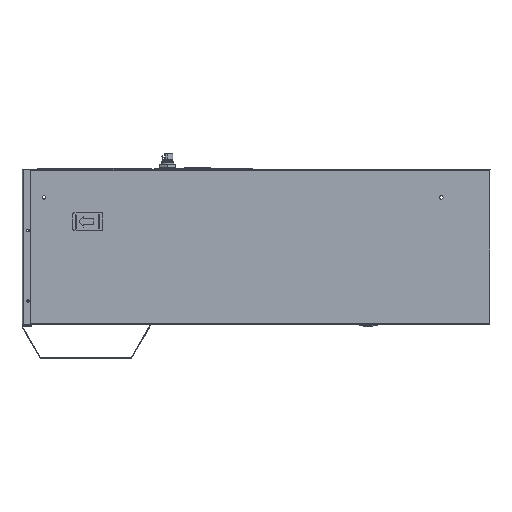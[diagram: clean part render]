
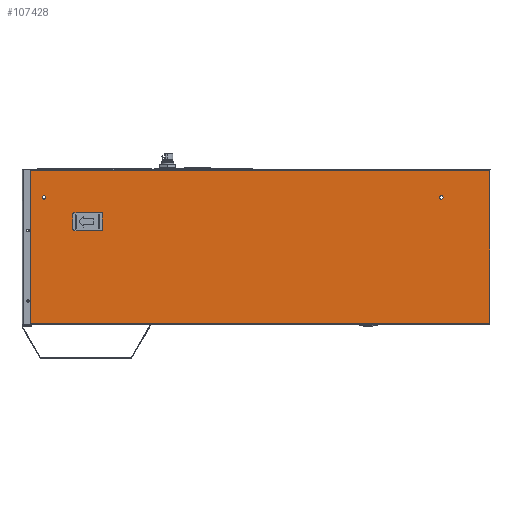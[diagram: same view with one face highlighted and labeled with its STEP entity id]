
A CAD part, left-side view. The second image highlights one B-rep face of the part: STEP entity #107428.
In plain terms, the highlighted planar face has unit normal (-1, 0, 0).
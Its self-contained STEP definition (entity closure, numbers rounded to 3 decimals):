
#4379 = EDGE_CURVE ( 'NONE', #43909, #323243, #341657, .T. ) ;
#10546 = CARTESIAN_POINT ( 'NONE',  ( -149.25, 907., 44.957 ) ) ;
#16429 = CARTESIAN_POINT ( 'NONE',  ( -149.25, 915., 300.806 ) ) ;
#18563 = DIRECTION ( 'NONE',  ( 0., 0., -1. ) ) ;
#19150 = DIRECTION ( 'NONE',  ( 0., 0., -1. ) ) ;
#39277 = DIRECTION ( 'NONE',  ( 0., 0., -1. ) ) ;
#43909 = VERTEX_POINT ( 'NONE', #54757 ) ;
#51659 = AXIS2_PLACEMENT_3D ( 'NONE', #77028, #277119, #105850 ) ;
#53071 = LINE ( 'NONE', #369720, #348435 ) ;
#54757 = CARTESIAN_POINT ( 'NONE',  ( -149.25, 875.601, 251.607 ) ) ;
#58569 = EDGE_CURVE ( 'NONE', #298097, #134741, #302938, .T. ) ;
#58740 = DIRECTION ( 'NONE',  ( 0., 0., -1. ) ) ;
#59630 = CARTESIAN_POINT ( 'NONE',  ( -149.25, 875.601, 248.107 ) ) ;
#73892 = CIRCLE ( 'NONE', #141784, 2.153 ) ;
#76088 = EDGE_CURVE ( 'NONE', #134741, #298097, #127586, .T. ) ;
#77028 = CARTESIAN_POINT ( 'NONE',  ( -149.25, 915., 0. ) ) ;
#80191 = CARTESIAN_POINT ( 'NONE',  ( -149.25, 0., 0. ) ) ;
#81795 = EDGE_CURVE ( 'NONE', #255290, #211339, #356520, .T. ) ;
#82511 = CIRCLE ( 'NONE', #251229, 3.5 ) ;
#88414 = AXIS2_PLACEMENT_3D ( 'NONE', #129667, #329794, #158375 ) ;
#93172 = ORIENTED_EDGE ( 'NONE', *, *, #366770, .T. ) ;
#94990 = CARTESIAN_POINT ( 'NONE',  ( -149.25, 0., 300.806 ) ) ;
#98318 = VERTEX_POINT ( 'NONE', #94990 ) ;
#105850 = DIRECTION ( 'NONE',  ( 0., 0., -1. ) ) ;
#107428 = ADVANCED_FACE ( 'NONE', ( #184864, #108807, #328086, #251821, #175890 ), #190854, .F. ) ;
#108807 = FACE_BOUND ( 'NONE', #189956, .T. ) ;
#116350 = CARTESIAN_POINT ( 'NONE',  ( -149.25, 0., 0.787 ) ) ;
#117064 = ORIENTED_EDGE ( 'NONE', *, *, #355174, .T. ) ;
#119514 = CIRCLE ( 'NONE', #141017, 3.5 ) ;
#123585 = DIRECTION ( 'NONE',  ( 1., 0., 0. ) ) ;
#125026 = AXIS2_PLACEMENT_3D ( 'NONE', #301813, #130521, #330641 ) ;
#127586 = CIRCLE ( 'NONE', #88414, 2.153 ) ;
#129667 = CARTESIAN_POINT ( 'NONE',  ( -149.25, 907., 182.957 ) ) ;
#130521 = DIRECTION ( 'NONE',  ( 1., 0., 0. ) ) ;
#132492 = CARTESIAN_POINT ( 'NONE',  ( -149.25, 95.601, 244.607 ) ) ;
#132828 = CARTESIAN_POINT ( 'NONE',  ( -149.25, 907., 42.804 ) ) ;
#134741 = VERTEX_POINT ( 'NONE', #301493 ) ;
#138954 = VECTOR ( 'NONE', #309043, 1000. ) ;
#140346 = VERTEX_POINT ( 'NONE', #132828 ) ;
#141017 = AXIS2_PLACEMENT_3D ( 'NONE', #361858, #190545, #19150 ) ;
#141784 = AXIS2_PLACEMENT_3D ( 'NONE', #361285, #189941, #18563 ) ;
#144977 = ORIENTED_EDGE ( 'NONE', *, *, #271596, .F. ) ;
#149529 = DIRECTION ( 'NONE',  ( 1., 0., 0. ) ) ;
#150040 = LINE ( 'NONE', #161162, #208159 ) ;
#152851 = AXIS2_PLACEMENT_3D ( 'NONE', #320918, #149529, #349685 ) ;
#153178 = CARTESIAN_POINT ( 'NONE',  ( -149.25, 915., 0. ) ) ;
#155305 = EDGE_LOOP ( 'NONE', ( #287378, #215061 ) ) ;
#158375 = DIRECTION ( 'NONE',  ( 0., 0., -1. ) ) ;
#161162 = CARTESIAN_POINT ( 'NONE',  ( -149.25, 915., 0.787 ) ) ;
#167984 = EDGE_CURVE ( 'NONE', #211339, #255290, #82511, .T. ) ;
#175890 = FACE_OUTER_BOUND ( 'NONE', #264748, .T. ) ;
#178064 = ORIENTED_EDGE ( 'NONE', *, *, #359776, .T. ) ;
#181978 = DIRECTION ( 'NONE',  ( 0., 0., -1. ) ) ;
#183970 = VERTEX_POINT ( 'NONE', #16429 ) ;
#184864 = FACE_BOUND ( 'NONE', #155305, .T. ) ;
#189934 = DIRECTION ( 'NONE',  ( 0., 1., 0. ) ) ;
#189941 = DIRECTION ( 'NONE',  ( 1., 0., 0. ) ) ;
#189956 = EDGE_LOOP ( 'NONE', ( #303114, #190432 ) ) ;
#190432 = ORIENTED_EDGE ( 'NONE', *, *, #58569, .T. ) ;
#190545 = DIRECTION ( 'NONE',  ( 1., 0., 0. ) ) ;
#190854 = PLANE ( 'NONE',  #51659 ) ;
#194539 = LINE ( 'NONE', #153178, #337772 ) ;
#201854 = ORIENTED_EDGE ( 'NONE', *, *, #81795, .T. ) ;
#207055 = CARTESIAN_POINT ( 'NONE',  ( -149.25, 875.601, 244.607 ) ) ;
#208159 = VECTOR ( 'NONE', #189934, 1000. ) ;
#210611 = DIRECTION ( 'NONE',  ( 1., 0., 0. ) ) ;
#211339 = VERTEX_POINT ( 'NONE', #132492 ) ;
#212346 = EDGE_CURVE ( 'NONE', #140346, #335619, #234731, .T. ) ;
#215061 = ORIENTED_EDGE ( 'NONE', *, *, #229203, .T. ) ;
#216454 = CARTESIAN_POINT ( 'NONE',  ( -149.25, 907., 185.11 ) ) ;
#229203 = EDGE_CURVE ( 'NONE', #335619, #140346, #73892, .T. ) ;
#234731 = CIRCLE ( 'NONE', #240258, 2.153 ) ;
#240258 = AXIS2_PLACEMENT_3D ( 'NONE', #10546, #210611, #39277 ) ;
#251229 = AXIS2_PLACEMENT_3D ( 'NONE', #294880, #123585, #323678 ) ;
#251821 = FACE_BOUND ( 'NONE', #252664, .T. ) ;
#252664 = EDGE_LOOP ( 'NONE', ( #366431, #201854 ) ) ;
#253533 = VERTEX_POINT ( 'NONE', #322855 ) ;
#255290 = VERTEX_POINT ( 'NONE', #355738 ) ;
#255693 = DIRECTION ( 'NONE',  ( 0., 1., 0. ) ) ;
#264748 = EDGE_LOOP ( 'NONE', ( #178064, #93172, #117064, #144977 ) ) ;
#271328 = ORIENTED_EDGE ( 'NONE', *, *, #293028, .T. ) ;
#271596 = EDGE_CURVE ( 'NONE', #359858, #253533, #150040, .T. ) ;
#277119 = DIRECTION ( 'NONE',  ( 1., 0., 0. ) ) ;
#287378 = ORIENTED_EDGE ( 'NONE', *, *, #212346, .T. ) ;
#293028 = EDGE_CURVE ( 'NONE', #323243, #43909, #119514, .T. ) ;
#294880 = CARTESIAN_POINT ( 'NONE',  ( -149.25, 95.601, 248.107 ) ) ;
#298097 = VERTEX_POINT ( 'NONE', #216454 ) ;
#301493 = CARTESIAN_POINT ( 'NONE',  ( -149.25, 907., 180.804 ) ) ;
#301813 = CARTESIAN_POINT ( 'NONE',  ( -149.25, 95.601, 248.107 ) ) ;
#302938 = CIRCLE ( 'NONE', #152851, 2.153 ) ;
#303114 = ORIENTED_EDGE ( 'NONE', *, *, #76088, .T. ) ;
#309043 = DIRECTION ( 'NONE',  ( 0., 0., 1. ) ) ;
#314095 = ORIENTED_EDGE ( 'NONE', *, *, #4379, .T. ) ;
#320152 = CARTESIAN_POINT ( 'NONE',  ( -149.25, 907., 47.11 ) ) ;
#320918 = CARTESIAN_POINT ( 'NONE',  ( -149.25, 907., 182.957 ) ) ;
#322855 = CARTESIAN_POINT ( 'NONE',  ( -149.25, 915., 0.787 ) ) ;
#323243 = VERTEX_POINT ( 'NONE', #207055 ) ;
#323678 = DIRECTION ( 'NONE',  ( 0., 0., -1. ) ) ;
#328086 = FACE_BOUND ( 'NONE', #363673, .T. ) ;
#329794 = DIRECTION ( 'NONE',  ( 1., 0., 0. ) ) ;
#330641 = DIRECTION ( 'NONE',  ( 0., 0., -1. ) ) ;
#333240 = DIRECTION ( 'NONE',  ( 1., 0., 0. ) ) ;
#335619 = VERTEX_POINT ( 'NONE', #320152 ) ;
#337772 = VECTOR ( 'NONE', #181978, 1000. ) ;
#341657 = CIRCLE ( 'NONE', #368995, 3.5 ) ;
#348435 = VECTOR ( 'NONE', #255693, 1000. ) ;
#349685 = DIRECTION ( 'NONE',  ( 0., 0., -1. ) ) ;
#355174 = EDGE_CURVE ( 'NONE', #183970, #253533, #194539, .T. ) ;
#355738 = CARTESIAN_POINT ( 'NONE',  ( -149.25, 95.601, 251.607 ) ) ;
#356520 = CIRCLE ( 'NONE', #125026, 3.5 ) ;
#359776 = EDGE_CURVE ( 'NONE', #359858, #98318, #367250, .T. ) ;
#359858 = VERTEX_POINT ( 'NONE', #116350 ) ;
#361285 = CARTESIAN_POINT ( 'NONE',  ( -149.25, 907., 44.957 ) ) ;
#361858 = CARTESIAN_POINT ( 'NONE',  ( -149.25, 875.601, 248.107 ) ) ;
#363673 = EDGE_LOOP ( 'NONE', ( #271328, #314095 ) ) ;
#366431 = ORIENTED_EDGE ( 'NONE', *, *, #167984, .T. ) ;
#366770 = EDGE_CURVE ( 'NONE', #98318, #183970, #53071, .T. ) ;
#367250 = LINE ( 'NONE', #80191, #138954 ) ;
#368995 = AXIS2_PLACEMENT_3D ( 'NONE', #59630, #333240, #58740 ) ;
#369720 = CARTESIAN_POINT ( 'NONE',  ( -149.25, 0., 300.806 ) ) ;
